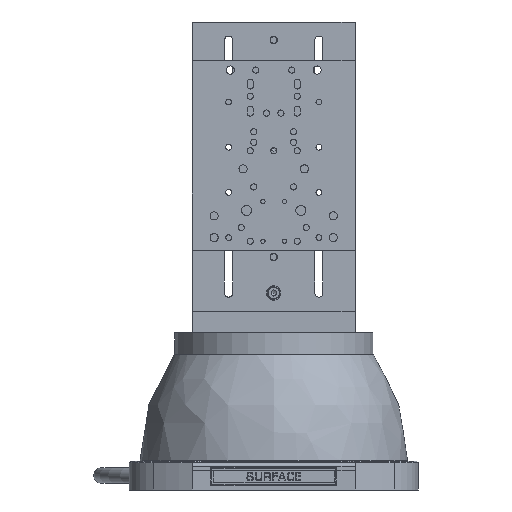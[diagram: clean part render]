
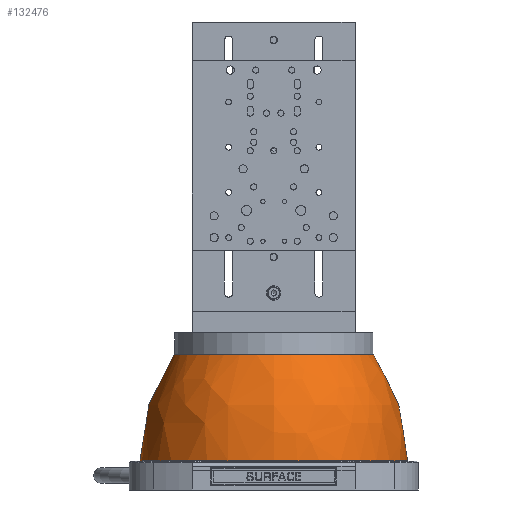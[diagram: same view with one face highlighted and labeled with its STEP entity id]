
A CAD part, front view. The second image highlights one B-rep face of the part: STEP entity #132476.
In plain terms, the highlighted free-form (B-spline) face has degree [2, 2] with [3, 9] control points.
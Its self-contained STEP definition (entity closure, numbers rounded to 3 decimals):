
#363=(
BOUNDED_SURFACE()
B_SPLINE_SURFACE(2,2,((#205973,#205974,#205975,#205976,#205977,#205978,
#205979,#205980,#205981),(#205982,#205983,#205984,#205985,#205986,#205987,
#205988,#205989,#205990),(#205991,#205992,#205993,#205994,#205995,#205996,
#205997,#205998,#205999)),.UNSPECIFIED.,.F.,.T.,.F.)
B_SPLINE_SURFACE_WITH_KNOTS((3,3),(3,2,2,2,3),(-0.625,0.),
(-3.142,-1.571,0.,1.571,3.142),
 .UNSPECIFIED.)
GEOMETRIC_REPRESENTATION_ITEM()
RATIONAL_B_SPLINE_SURFACE(((1.,0.707,1.,0.707,1.,
0.707,1.,0.707,1.),(0.952,0.673,
0.952,0.673,0.952,0.673,0.952,
0.673,0.952),(1.,0.707,1.,0.707,
1.,0.707,1.,0.707,1.)))
REPRESENTATION_ITEM('')
SURFACE()
);
#18564=FACE_OUTER_BOUND('',#25170,.T.);
#25170=EDGE_LOOP('',(#122510,#122511,#122512,#122513,#122514,#122515));
#59687=CIRCLE('',#140379,55.);
#59688=CIRCLE('',#140380,55.);
#59689=CIRCLE('',#140381,74.);
#59690=CIRCLE('',#140382,74.);
#59691=CIRCLE('',#140383,100.486);
#71022=VERTEX_POINT('',#205969);
#71023=VERTEX_POINT('',#205970);
#71024=VERTEX_POINT('',#206000);
#71025=VERTEX_POINT('',#206001);
#88444=EDGE_CURVE('',#71022,#71023,#59687,.T.);
#88445=EDGE_CURVE('',#71023,#71022,#59688,.T.);
#88446=EDGE_CURVE('',#71024,#71025,#59689,.T.);
#88447=EDGE_CURVE('',#71025,#71024,#59690,.T.);
#88448=EDGE_CURVE('',#71025,#71023,#59691,.T.);
#122510=ORIENTED_EDGE('',*,*,#88446,.F.);
#122511=ORIENTED_EDGE('',*,*,#88447,.F.);
#122512=ORIENTED_EDGE('',*,*,#88448,.T.);
#122513=ORIENTED_EDGE('',*,*,#88445,.T.);
#122514=ORIENTED_EDGE('',*,*,#88444,.T.);
#122515=ORIENTED_EDGE('',*,*,#88448,.F.);
#132476=ADVANCED_FACE('',(#18564),#363,.F.);
#140379=AXIS2_PLACEMENT_3D('',#205971,#169697,#169698);
#140380=AXIS2_PLACEMENT_3D('',#205972,#169699,#169700);
#140381=AXIS2_PLACEMENT_3D('',#206002,#169701,#169702);
#140382=AXIS2_PLACEMENT_3D('',#206003,#169703,#169704);
#140383=AXIS2_PLACEMENT_3D('',#206004,#169705,#169706);
#169697=DIRECTION('center_axis',(0.,-1.,0.));
#169698=DIRECTION('ref_axis',(1.,0.,0.));
#169699=DIRECTION('center_axis',(0.,-1.,0.));
#169700=DIRECTION('ref_axis',(1.,0.,0.));
#169701=DIRECTION('center_axis',(0.,-1.,0.));
#169702=DIRECTION('ref_axis',(1.,0.,0.));
#169703=DIRECTION('center_axis',(0.,-1.,0.));
#169704=DIRECTION('ref_axis',(1.,0.,0.));
#169705=DIRECTION('center_axis',(-1.,0.,0.));
#169706=DIRECTION('ref_axis',(0.,0.,1.));
#205969=CARTESIAN_POINT('',(55.,70.,0.));
#205970=CARTESIAN_POINT('',(0.,70.,55.));
#205971=CARTESIAN_POINT('Origin',(0.,70.,0.));
#205972=CARTESIAN_POINT('Origin',(0.,70.,0.));
#205973=CARTESIAN_POINT('Ctrl Pts',(0.,70.,55.));
#205974=CARTESIAN_POINT('Ctrl Pts',(-55.,70.,55.));
#205975=CARTESIAN_POINT('Ctrl Pts',(-55.,70.,0.));
#205976=CARTESIAN_POINT('Ctrl Pts',(-55.,70.,-55.));
#205977=CARTESIAN_POINT('Ctrl Pts',(0.,70.,-55.));
#205978=CARTESIAN_POINT('Ctrl Pts',(55.,70.,-55.));
#205979=CARTESIAN_POINT('Ctrl Pts',(55.,70.,0.));
#205980=CARTESIAN_POINT('Ctrl Pts',(55.,70.,55.));
#205981=CARTESIAN_POINT('Ctrl Pts',(0.,70.,55.));
#205982=CARTESIAN_POINT('Ctrl Pts',(0.,43.67,74.));
#205983=CARTESIAN_POINT('Ctrl Pts',(-74.,43.67,
74.));
#205984=CARTESIAN_POINT('Ctrl Pts',(-74.,43.67,
0.));
#205985=CARTESIAN_POINT('Ctrl Pts',(-74.,43.67,
-74.));
#205986=CARTESIAN_POINT('Ctrl Pts',(0.,43.67,-74.));
#205987=CARTESIAN_POINT('Ctrl Pts',(74.,43.67,-74.));
#205988=CARTESIAN_POINT('Ctrl Pts',(74.,43.67,0.));
#205989=CARTESIAN_POINT('Ctrl Pts',(74.,43.67,74.));
#205990=CARTESIAN_POINT('Ctrl Pts',(0.,43.67,74.));
#205991=CARTESIAN_POINT('Ctrl Pts',(0.,11.2,74.));
#205992=CARTESIAN_POINT('Ctrl Pts',(-74.,11.2,74.));
#205993=CARTESIAN_POINT('Ctrl Pts',(-74.,11.2,0.));
#205994=CARTESIAN_POINT('Ctrl Pts',(-74.,11.2,-74.));
#205995=CARTESIAN_POINT('Ctrl Pts',(0.,11.2,-74.));
#205996=CARTESIAN_POINT('Ctrl Pts',(74.,11.2,-74.));
#205997=CARTESIAN_POINT('Ctrl Pts',(74.,11.2,0.));
#205998=CARTESIAN_POINT('Ctrl Pts',(74.,11.2,74.));
#205999=CARTESIAN_POINT('Ctrl Pts',(0.,11.2,74.));
#206000=CARTESIAN_POINT('',(74.,11.2,0.));
#206001=CARTESIAN_POINT('',(0.,11.2,74.));
#206002=CARTESIAN_POINT('Origin',(0.,11.2,0.));
#206003=CARTESIAN_POINT('Origin',(0.,11.2,0.));
#206004=CARTESIAN_POINT('Origin',(0.,11.2,-26.486));
